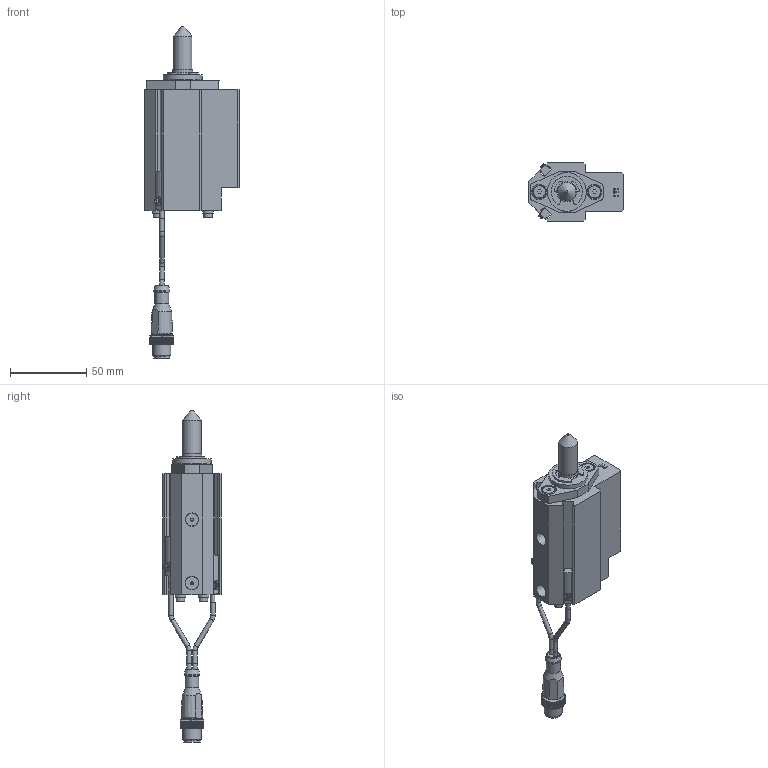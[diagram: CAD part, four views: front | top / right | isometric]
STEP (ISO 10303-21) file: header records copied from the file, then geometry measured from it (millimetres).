
FILE_DESCRIPTION(/* description */ ('NAAMS FLOATING MICRO PIN'),/* implementation_level */ '2;1');
FILE_NAME(/* name */ 'C:\Vault Workspace\CAD\Welker\Shot Pin\NMP\NMP120022AENL3.stp',/* time_stamp */ '2021-01-27T10:36:28-05:00',/* author */ ('WELKER'),/* organization */ (''),/* preprocessor_version */ 'ST-DEVELOPER v18.1',/* originating_system */ 'Autodesk Inventor 2020',/* authorisation */ '');
FILE_SCHEMA (('AUTOMOTIVE_DESIGN { 1 0 10303 214 3 1 1 }'));
Length unit declared in the file: millimetre
Products named in the file (16): NMPL01; NMP L3 SWITCH; L3 Connector; L3 Sensor 1; L3 Sensor 2; L3 Sensor cable; L3 Sensor cable 2; M3X0.5-8 SHCS; NL3; NMPE06; NMPE03; NMPE05-DIA-LENGTH; 985432A218; NMPE01E-PORT; RMPE02; M5X5 SHOULDER
Assembly tree (22 placements, depth 3):
  NMPL01
    NMP L3 SWITCH
      L3 Connector
      L3 Sensor 1
      L3 Sensor 2
      L3 Sensor cable
      L3 Sensor cable 2
    M3X0.5-8 SHCS  x4
    NL3  x4
    NMPE06
    NMPE03
    NMPE05-DIA-LENGTH
    985432A218
    NMPE01E-PORT
    RMPE02
    M5X5 SHOULDER  x2
Bounding box: 62 x 38.1 x 217.12 mm (x, y, z)
Volume: 114973.6 mm3; surface area: 45040.6 mm2
Topology: 21 solids, 21 shells, 748 faces, 2030 edges, 1357 vertices
Faces by surface type: plane 553, cylinder 144, cone 35, torus 11, sphere 3, bspline 2
Full cylindrical faces by diameter (mm): 2 x2, 2.459 x4, 2.9 x10, 3 x5, 3.242 x2, 3.4 x4, 4 x2, 5 x6, 5.5 x4, 6.647 x2, 7 x4, 8 x2, 8.3 x2, 9 x3, 10 x3, 10.4 x1, 10.5 x1, 12 x2, 13 x3, 16 x2, 19.05 x3, 21 x1, 22.5 x1, 23.672 x1, 24 x1, 25.4 x1, 25.5 x1, 26.5 x1, 28.677 x1, 29.21 x1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
Entity records: 22859 total; most frequent: CARTESIAN_POINT 4181, ORIENTED_EDGE 3752, DIRECTION 3736, EDGE_CURVE 1876, LINE 1388, VECTOR 1388, VERTEX_POINT 1262, AXIS2_PLACEMENT_3D 1174
